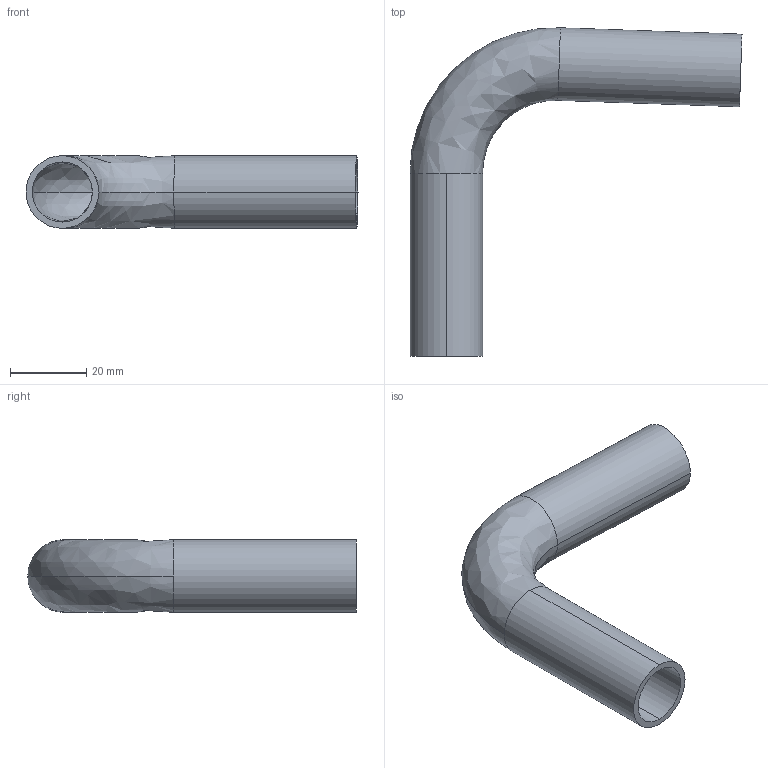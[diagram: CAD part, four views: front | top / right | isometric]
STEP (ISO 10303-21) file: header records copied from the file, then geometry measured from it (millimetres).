
FILE_DESCRIPTION (( 'STEP AP214' ), '1' );
FILE_NAME ('TE2S926L.75-...STEP', '2016-05-22T11:20:03', ( 'eran' ), ( '' ), 'SwSTEP 2.0', 'SolidWorks 2016', '' );
FILE_SCHEMA (( 'AUTOMOTIVE_DESIGN' ));
Length unit declared in the file: millimetre
Products named in the file (1): TE2S926L.75-..
Bounding box: 87.08 x 86.11 x 19.05 mm (x, y, z)
Volume: 12770.2 mm3; surface area: 15659.4 mm2
Topology: 1 solids, 1 shells, 14 faces, 32 edges, 20 vertices
Faces by surface type: cylinder 8, bspline 4, plane 2
Entity records: 490 total; most frequent: CARTESIAN_POINT 127, DIRECTION 78, ORIENTED_EDGE 64, AXIS2_PLACEMENT_3D 35, EDGE_CURVE 32, CIRCLE 24, VERTEX_POINT 20, EDGE_LOOP 16
